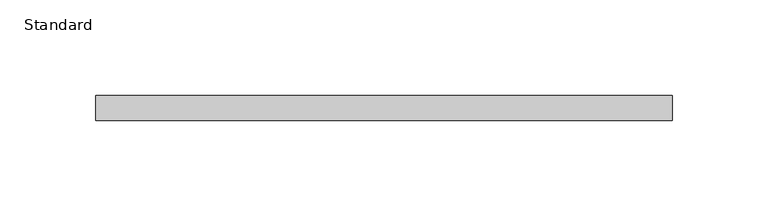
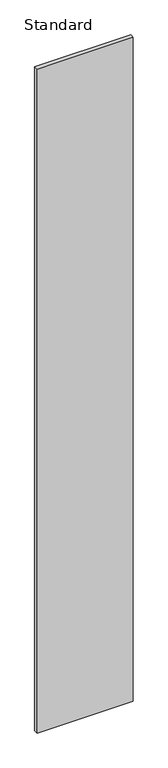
"""IFC4 building model written with IfcOpenShell, lengths in millimetres: furniture geometry, X_Partition-Compact Laminate-Duracube-Rectangular : Standard."""

from ifc_helpers import new_model, si_unit, frame, origin, place, context, project, spatial, polyline, outline, extrude, source, transform, mapped, element, save


def standard_312035cd(model_context):
    return source(origin(), model_context, "Body", "SweptSolid", [
        extrude(outline(polyline([(195.2003264, 0.0), (195.2003264, -13.0), (-105.7996736, -13.0), (-105.7996736, 0.0), (195.2003264, 0.0)])), frame((0.0, 0.0, 200.0), z_axis=(0.0, 0.0, 1.0), x_axis=(1.0, 0.0, 0.0)), (0.0, 0.0, 1.0), 2198.0),
    ])


if __name__ == "__main__":
    model = new_model("IFC4")
    model_context = context("Model", 3, world=origin())
    ifc_project = project(units=[si_unit("LENGTHUNIT", "METRE", prefix="MILLI")], contexts=[model_context])
    site = spatial("IfcSite", under=ifc_project)
    building = spatial("IfcBuilding", under=site)
    placement = place(None, origin())
    standard_shape = standard_312035cd(model_context)
    element("IfcFurniture", 1, ObjectType="X_Partition-Compact Laminate-Duracube-Rectangular : Standard", at=placement, inside=building, context=model_context, shape_type="MappedRepresentation", body=[
        mapped(standard_shape, transform((0.0, 0.0, 0.0), x_axis=(1.0, 0.0, 0.0), y_axis=(0.0, 1.0, 0.0), z_axis=(0.0, 0.0, 1.0))),
    ])
    save(model, "model.ifc")
